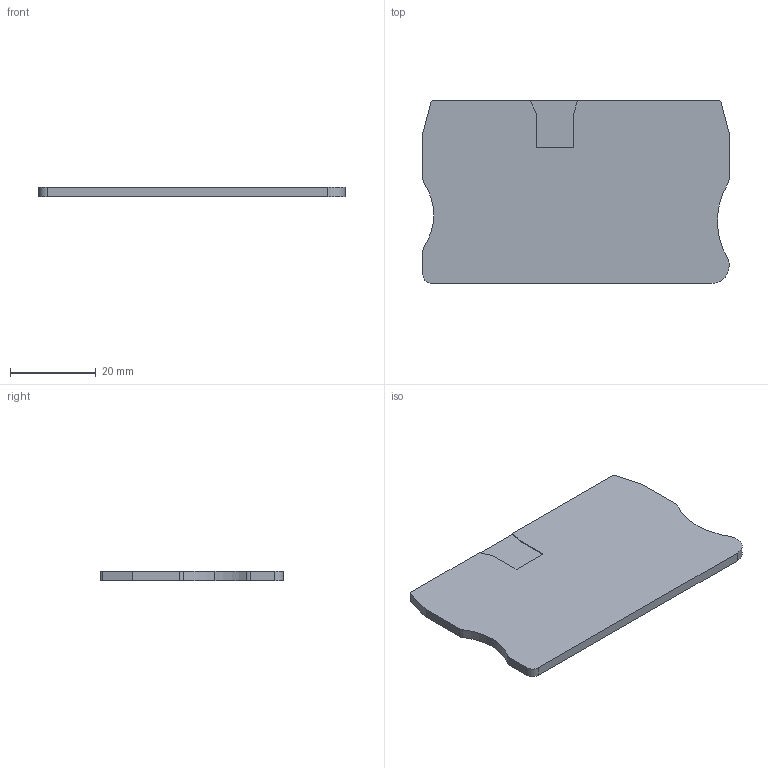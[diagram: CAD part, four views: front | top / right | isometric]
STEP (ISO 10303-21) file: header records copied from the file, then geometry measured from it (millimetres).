
FILE_DESCRIPTION(('SolidDesigner STEP Export'),'2;1');
FILE_NAME('3036644_d_st10.stp','2004-02-03T14:46:59',(''),(''),'OneSpaceDesigner STEP processor Version: 9.0 (March 2001)for AP214(CD)(Solid Model)','CoCreate OneSpaceDesigner: 11.50A 18-Jul-2002(C) CoCreate Software GmbH','');
FILE_SCHEMA(('AUTOMOTIVE_DESIGN_CC2 {1 2 10303 214 -1 1 5 1}'));
Length unit declared in the file: millimetre
Products named in the file (2): d_st_10-select
Assembly tree (1 placements, depth 2):
  d_st_10-select
    d_st_10-select
Bounding box: 71.34 x 42.61 x 2.2 mm (x, y, z)
Volume: 6444.3 mm3; surface area: 6427.7 mm2
Topology: 1 solids, 1 shells, 38 faces, 108 edges, 72 vertices
Faces by surface type: plane 22, cylinder 16
Entity records: 1555 total; most frequent: ORIENTED_EDGE 216, CARTESIAN_POINT 212, DIRECTION 206, EDGE_CURVE 108, VECTOR 74, LINE 74, VERTEX_POINT 72, AXIS2_PLACEMENT_3D 66
